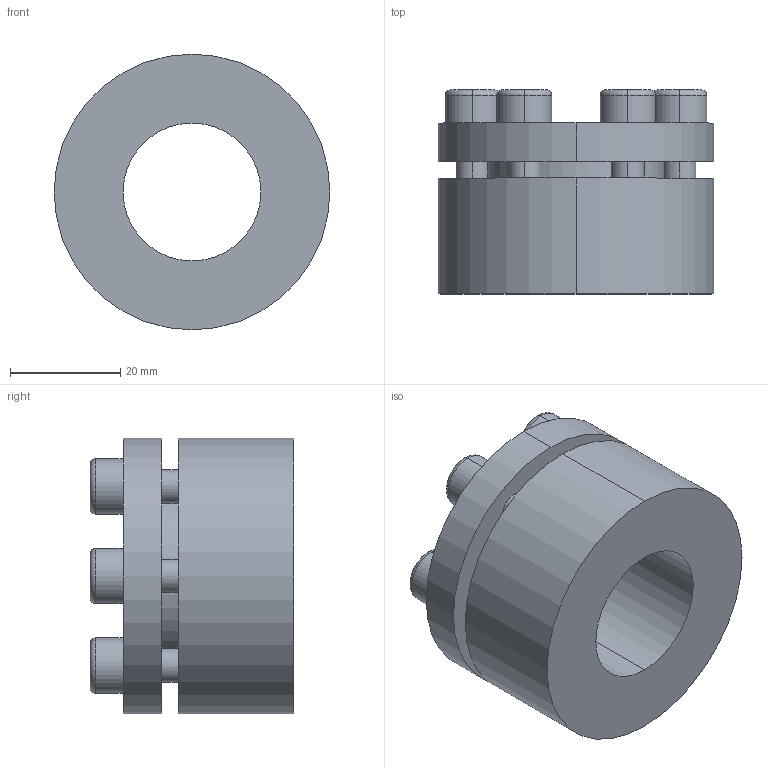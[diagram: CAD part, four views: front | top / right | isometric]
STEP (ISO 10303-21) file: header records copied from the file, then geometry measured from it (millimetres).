
FILE_DESCRIPTION (( 'STEP AP203' ), '1' );
FILE_NAME ('PL-H1 25-50.STEP', '2021-10-23T00:53:18', ( '' ), ( '' ), 'SwSTEP 2.0', 'SolidWorks 2018', '' );
FILE_SCHEMA (( 'CONFIG_CONTROL_DESIGN' ));
Length unit declared in the file: millimetre
Products named in the file (1): PL-H1 25-50
Bounding box: 50 x 37 x 50 mm (x, y, z)
Volume: 45074.9 mm3; surface area: 13681.2 mm2
Topology: 1 solids, 1 shells, 107 faces, 261 edges, 170 vertices
Faces by surface type: plane 52, cylinder 43, torus 12
Entity records: 3250 total; most frequent: DIRECTION 587, CARTESIAN_POINT 539, ORIENTED_EDGE 522, EDGE_CURVE 261, AXIS2_PLACEMENT_3D 218, VERTEX_POINT 170, LINE 151, VECTOR 151
